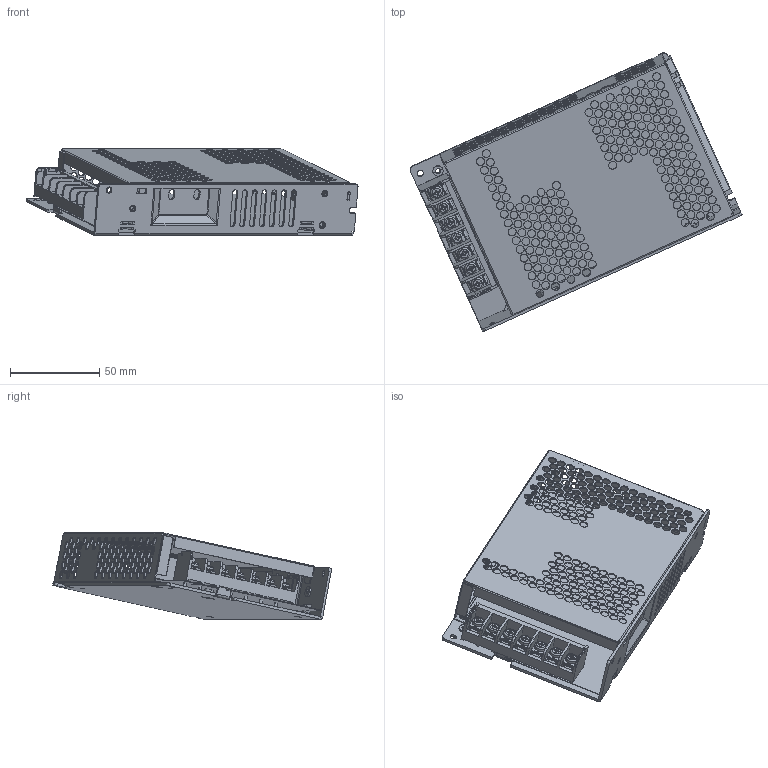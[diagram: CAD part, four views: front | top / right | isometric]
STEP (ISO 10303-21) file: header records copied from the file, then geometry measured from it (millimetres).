
FILE_DESCRIPTION((''),'2;1');
FILE_NAME('PMTXXV200W2BNX-3D_ASM','2024-09-18T10:47:46',('ALBERT.LI'),(''),'CREO PARAMETRIC BY PTC INC, 2023294','CREO PARAMETRIC BY PTC INC, 2023294','');
FILE_SCHEMA(('CONFIG_CONTROL_DESIGN'));
Products named in the file (28): 337682200000_3; 3308479700_1_1; CHASSIS-STANDOFF_2_1; ASM0002_ASM_1_ASM_1_ASM; 3308479700_ASM_1_ASM; BOARD_1; HOUSING-A_134_1_1_1_1_2_1; JIAOZI_6_1_1_1_1_1_2_1; JIAOZI_6_2_1_1_1_1_2_1; JIAOZI_6_ASM_1_ASM_1_ASM_1_1_2__ASM; YK2002A1-441_07_6_1_1_1_1_1_2_1; YK2002A1-441_07_6_2_1_1_1_1_2_1; YK2002A1-441_07_6_ASM_1_ASM_1_2_ASM; YK5001A1-441_07_6_1_1_1_1_2_1; YK5002A1-441_07_6_1_1_1_1_2_1; YK0002A1-441_07_ASM_1_ASM_1_A_2_ASM; YK441-7P_ASM_115_ASM_1_ASM_1__2_ASM; YK441070XXXXG-PE_PIN_WITHOUT__3_ASM; 3073745220_ASM_1_ASM_1_1_2_ASM__ASM; CAD0000391141_ASM_1_1_2_ASM_ASM_ASM; 307_ASM_1_1_2_ASM_ASM_1_ASM; CAD0000391683_ASM_ASM_1_ASM; 3073745220_ASM_1_ASM; CN1_ASM_1_ASM; PCB_ASM_1_ASM; PMT-24V200W2BNJ_R0C1_ASM_1_ASM; PMT-24V200W2BNJ_R0C0_ASM_3_ASM; PMTXXV200W2BNX-3D_ASM
Assembly tree (38 placements, depth 14):
  PMTXXV200W2BNX-3D_ASM
    PMT-24V200W2BNJ_R0C0_ASM_3_ASM
      337682200000_3
      3308479700_ASM_1_ASM
        ASM0002_ASM_1_ASM_1_ASM
          3308479700_1_1
          CHASSIS-STANDOFF_2_1
      PMT-24V200W2BNJ_R0C1_ASM_1_ASM
        PCB_ASM_1_ASM
          BOARD_1
          CN1_ASM_1_ASM
            3073745220_ASM_1_ASM
              CAD0000391683_ASM_ASM_1_ASM
                307_ASM_1_1_2_ASM_ASM_1_ASM
                  CAD0000391141_ASM_1_1_2_ASM_ASM_ASM
Bounding box: 185.62 x 155.79 x 48.26 mm (x, y, z)
Volume: 56085 mm3; surface area: 115380.6 mm2
Topology: 33 solids, 33 shells, 3071 faces, 8910 edges, 5868 vertices
Faces by surface type: plane 1484, cylinder 1113, bspline 330, torus 92, cone 48, sphere 4
Entity records: 69341 total; most frequent: CARTESIAN_POINT 19100, DIRECTION 10406, ORIENTED_EDGE 10346, EDGE_CURVE 5173, AXIS2_PLACEMENT_3D 3738, VERTEX_POINT 3339, VECTOR 2930, LINE 2930
